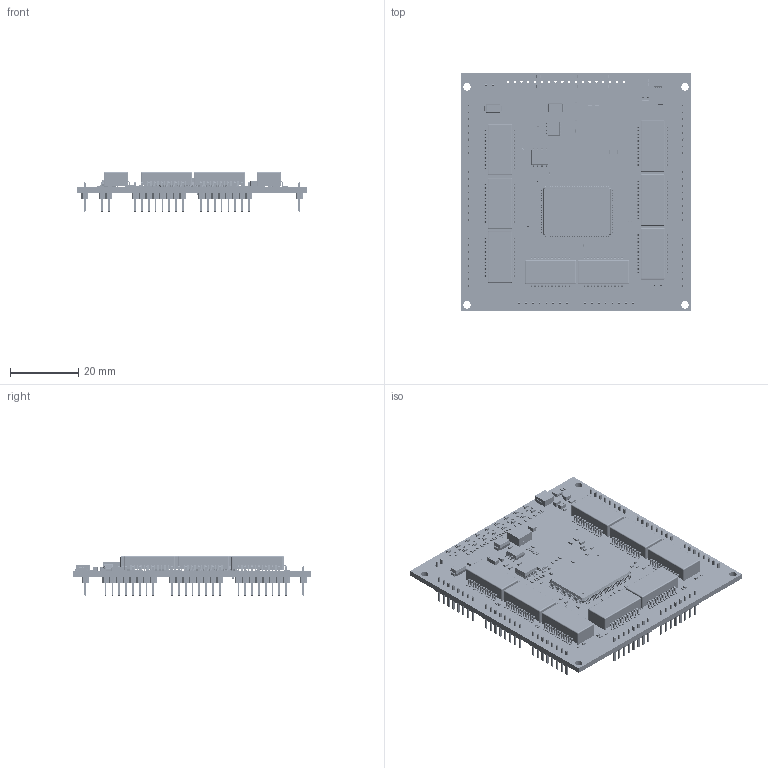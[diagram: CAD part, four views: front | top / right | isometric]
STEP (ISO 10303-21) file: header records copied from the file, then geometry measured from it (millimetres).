
FILE_DESCRIPTION(('Designed by EasyEDA Pro'),'2;1');
FILE_NAME('Open CASCADE Shape Model','2025-05-12T11:59:56',('Author'),( 'Open CASCADE'),'Open CASCADE STEP processor 7.8','Open CASCADE 7.8' ,'Unknown');
FILE_SCHEMA(('AUTOMOTIVE_DESIGN { 1 0 10303 214 1 1 1 1 }'));
Length unit declared in the file: millimetre
Products named in the file (46): EasyEDA PCB Model~MeSI; Board~MeSI; TopCopper~MeSI; BottomCopper~MeSI; TopFpcStiffener~MeSI; BottomFpcStiffener~MeSI; R46~R0402~R0402_L1.0-W0.5-H0.4~MeSI; R0402~R0402_L1.0-W0.5-H0.4~MeSI; U2~SOP-8L-6502-1902~SOP-8_L5.0-W4.4-P1.27-LS6.0-BL~MeSI; SOP-8L-6502-1902~SOP-8_L5.0-W4.4-P1.27-LS6.0-BL~MeSI; U3~STI3408~SOP-8_L5.0-W4.4-P1.27-LS6.0-BL~MeSI; STI3408~SOP-8_L5.0-W4.4-P1.27-LS6.0-BL~MeSI; U5~SOP8-201809~SOP-8_L5.0-W4.4-P1.27-LS6.0-BL~MeSI; SOP8-201809~SOP-8_L5.0-W4.4-P1.27-LS6.0-BL~MeSI; R5~R0603~R0603_L1.6-W0.8-H0.5~MeSI; R0603~R0603_L1.6-W0.8-H0.5~MeSI; C53~1206~C1206_L3.2-W1.6-H1.3~MeSI; 1206~C1206_L3.2-W1.6-H1.3~MeSI; C36~C0402~C0402~MeSI; C0402~C0402~MeSI; LL3~L0502~IND-SMD_L5.4-W5.2-H2.8_FXL0530~MeSI; L0502~IND-SMD_L5.4-W5.2-H2.8_FXL0530~MeSI; R7~0805-1907~R0805~MeSI; 0805-1907~R0805~MeSI; LL4~L0402~IND-SMD_L4.5-W4.1_SL0420~MeSI; L0402~IND-SMD_L4.5-W4.1_SL0420~MeSI; R3~1210~R1210_L3.2-W2.6-H0.7~MeSI; 1210~R1210_L3.2-W2.6-H0.7~MeSI; C4~0805-1907~C0805_L2.0-W1.3-H1.3~MeSI; 0805-1907~C0805_L2.0-W1.3-H1.3~MeSI; C65~C0603~C0603~MeSI; C0603~C0603~MeSI; Y~Y-3225-210511~CRYSTAL-SMD_4P-L3.2-W2.5-BL~MeSI; Y-3225-210511~CRYSTAL-SMD_4P-L3.2-W2.5-BL~MeSI; LP1~LED-A~LED0603-RD_RED~MeSI; LED-A~LED0603-RD_RED~MeSI; T1~PIN1X8-2.0-H25~HDR-TH_8P-P2.00-M-LI-1X8P~MeSI; PIN1X8-2.0-H25~HDR-TH_8P-P2.00-M-LI-1X8P~MeSI; DD1~SMA-S-2204~SMA_L4.3-W2.6-LS5.0-FD~MeSI; SMA-S-2204~SMA_L4.3-W2.6-LS5.0-FD~MeSI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
Assembly tree (181 placements, depth 3):
  EasyEDA PCB Model~MeSI
    Board~MeSI
    TopCopper~MeSI
    BottomCopper~MeSI
    TopFpcStiffener~MeSI
    BottomFpcStiffener~MeSI
    R46~R0402~R0402_L1.0-W0.5-H0.4~MeSI  x49
      R0402~R0402_L1.0-W0.5-H0.4~MeSI
    U2~SOP-8L-6502-1902~SOP-8_L5.0-W4.4-P1.27-LS6.0-BL~MeSI
      SOP-8L-6502-1902~SOP-8_L5.0-W4.4-P1.27-LS6.0-BL~MeSI
    U3~STI3408~SOP-8_L5.0-W4.4-P1.27-LS6.0-BL~MeSI
      STI3408~SOP-8_L5.0-W4.4-P1.27-LS6.0-BL~MeSI
    U5~SOP8-201809~SOP-8_L5.0-W4.4-P1.27-LS6.0-BL~MeSI
      SOP8-201809~SOP-8_L5.0-W4.4-P1.27-LS6.0-BL~MeSI
    R5~R0603~R0603_L1.6-W0.8-H0.5~MeSI  x5
      R0603~R0603_L1.6-W0.8-H0.5~MeSI
    C53~1206~C1206_L3.2-W1.6-H1.3~MeSI
      1206~C1206_L3.2-W1.6-H1.3~MeSI
    C36~C0402~C0402~MeSI  x47
      C0402~C0402~MeSI
    LL3~L0502~IND-SMD_L5.4-W5.2-H2.8_FXL0530~MeSI
      L0502~IND-SMD_L5.4-W5.2-H2.8_FXL0530~MeSI
    R7~0805-1907~R0805~MeSI
      0805-1907~R0805~MeSI
    LL4~L0402~IND-SMD_L4.5-W4.1_SL0420~MeSI
      L0402~IND-SMD_L4.5-W4.1_SL0420~MeSI
    R3~1210~R1210_L3.2-W2.6-H0.7~MeSI
      1210~R1210_L3.2-W2.6-H0.7~MeSI
    C4~0805-1907~C0805_L2.0-W1.3-H1.3~MeSI  x5
      0805-1907~C0805_L2.0-W1.3-H1.3~MeSI
    C65~C0603~C0603~MeSI  x4
      C0603~C0603~MeSI
    Y~Y-3225-210511~CRYSTAL-SMD_4P-L3.2-W2.5-BL~MeSI
      Y-3225-210511~CRYSTAL-SMD_4P-L3.2-W2.5-BL~MeSI
    LP1~LED-A~LED0603-RD_RED~MeSI  x17
      LED-A~LED0603-RD_RED~MeSI
    T1~PIN1X8-2.0-H25~HDR-TH_8P-P2.00-M-LI-1X8P~MeSI  x8
      PIN1X8-2.0-H25~HDR-TH_8P-P2.00-M-LI-1X8P~MeSI
    DD1~SMA-S-2204~SMA_L4.3-W2.6-LS5.0-FD~MeSI  x2
      SMA-S-2204~SMA_L4.3-W2.6-LS5.0-FD~MeSI
    GL1~NS892407B~SMD-24_L15.1-W7.1-H4.5-P1.00-LS10.0-BL~MeSI  x8
      NS892407B~SMD-24_L15.1-W7.1-H4.5-P1.00-LS10.0-BL~MeSI
    J~J2-POW_2MM~HDR-TH_2P-P2.00-M-LI-1X2P~MeSI
      J2-POW_2MM~HDR-TH_2P-P2.00-M-LI-1X2P~MeSI
    U1~FP128P-201805~LQFP-128_L20.0-W14.0-H1.6-P0.50-BL-EP7.0~MeSI
      FP128P-201805~LQFP-128_L20.0-W14.0-H1.6-P0.50-BL-EP7.0~MeSI
Bounding box: 67.77 x 70.06 x 11.7 mm (x, y, z)
Volume: 12113.1 mm3; surface area: 18130.8 mm2
Topology: 465 solids, 465 shells, 55708 faces, 151550 edges, 100204 vertices
Faces by surface type: plane 34194, bspline 16558, cylinder 4368, sphere 560, cone 16, torus 12
Entity records: 350841 total; most frequent: CARTESIAN_POINT 86452, ORIENTED_EDGE 47954, DIRECTION 35055, EDGE_CURVE 23977, LINE 17051, VECTOR 17051, VERTEX_POINT 15884, FACE_BOUND 9385
